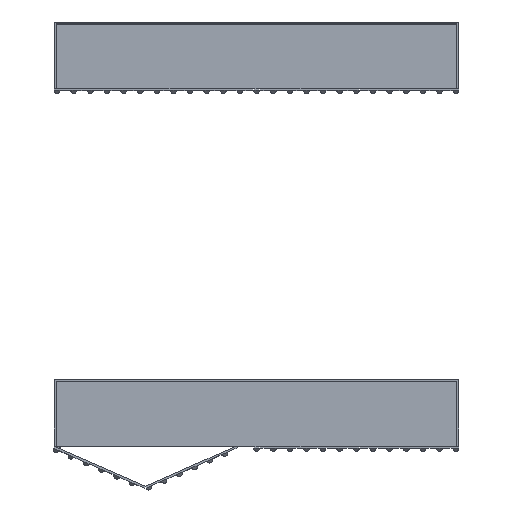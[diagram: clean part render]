
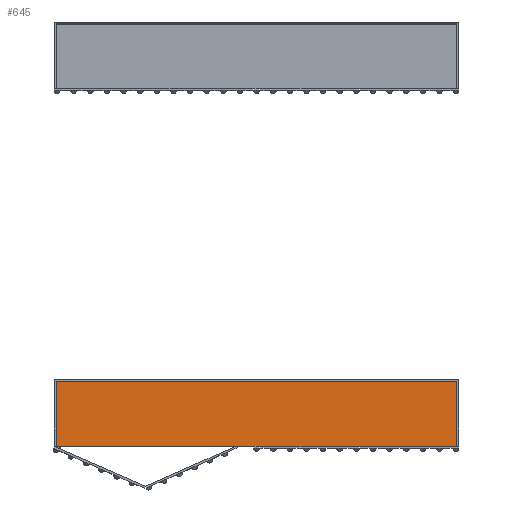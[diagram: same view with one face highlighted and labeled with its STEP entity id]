
A CAD part, top view. The second image highlights one B-rep face of the part: STEP entity #645.
In plain terms, the highlighted planar face has unit normal (0, 0, 1).
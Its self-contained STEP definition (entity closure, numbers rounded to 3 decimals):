
#645=ADVANCED_FACE('',(#1103),#5998,.T.);
#1103=FACE_OUTER_BOUND('',#1561,.T.);
#1561=EDGE_LOOP('',(#2259,#2260,#2261,#2262));
#2259=ORIENTED_EDGE('',*,*,#3972,.T.);
#2260=ORIENTED_EDGE('',*,*,#3976,.T.);
#2261=ORIENTED_EDGE('',*,*,#3979,.T.);
#2262=ORIENTED_EDGE('',*,*,#3981,.T.);
#3972=EDGE_CURVE('',#5494,#5493,#4830,.T.);
#3976=EDGE_CURVE('',#5493,#5496,#4834,.T.);
#3979=EDGE_CURVE('',#5496,#5498,#4837,.T.);
#3981=EDGE_CURVE('',#5498,#5494,#4839,.T.);
#4830=B_SPLINE_CURVE_WITH_KNOTS('',1,(#7736,#7737),.UNSPECIFIED.,.F.,.F.,
(2,2),(1.2,242.3),.UNSPECIFIED.);
#4834=B_SPLINE_CURVE_WITH_KNOTS('',1,(#7744,#7745),.UNSPECIFIED.,.F.,.F.,
(2,2),(242.3,281.1),.UNSPECIFIED.);
#4837=B_SPLINE_CURVE_WITH_KNOTS('',1,(#7750,#7751),.UNSPECIFIED.,.F.,.F.,
(2,2),(281.1,522.2),.UNSPECIFIED.);
#4839=B_SPLINE_CURVE_WITH_KNOTS('',1,(#7754,#7755),.UNSPECIFIED.,.F.,.F.,
(2,2),(522.2,561.),.UNSPECIFIED.);
#5493=VERTEX_POINT('',#7726);
#5494=VERTEX_POINT('',#7727);
#5496=VERTEX_POINT('',#7729);
#5498=VERTEX_POINT('',#7731);
#5998=PLANE('',#6342);
#6342=AXIS2_PLACEMENT_3D('',#7723,#6670,$);
#6670=DIRECTION('',(0.,0.,1.));
#7723=CARTESIAN_POINT('',(251.513,-3165.216,52.));
#7726=CARTESIAN_POINT('',(492.613,-3165.216,52.));
#7727=CARTESIAN_POINT('',(251.513,-3165.216,52.));
#7729=CARTESIAN_POINT('',(492.613,-3126.616,52.));
#7731=CARTESIAN_POINT('',(251.513,-3126.616,52.));
#7736=CARTESIAN_POINT('',(251.513,-3165.216,52.));
#7737=CARTESIAN_POINT('',(492.613,-3165.216,52.));
#7744=CARTESIAN_POINT('',(492.613,-3165.216,52.));
#7745=CARTESIAN_POINT('',(492.613,-3126.616,52.));
#7750=CARTESIAN_POINT('',(492.613,-3126.616,52.));
#7751=CARTESIAN_POINT('',(251.513,-3126.616,52.));
#7754=CARTESIAN_POINT('',(251.513,-3126.616,52.));
#7755=CARTESIAN_POINT('',(251.513,-3165.216,52.));
